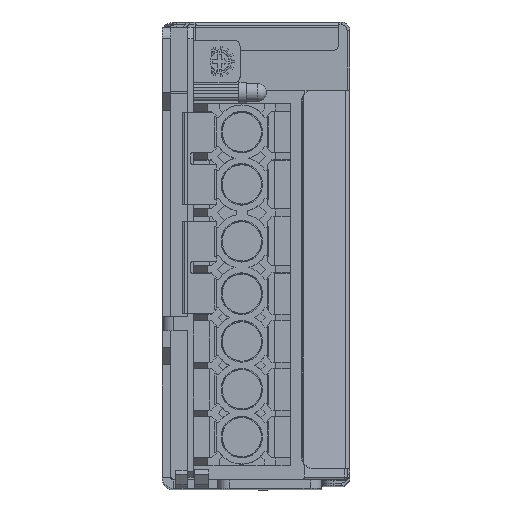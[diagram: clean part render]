
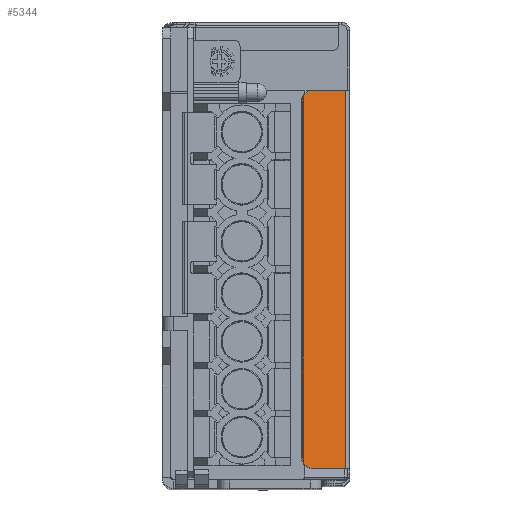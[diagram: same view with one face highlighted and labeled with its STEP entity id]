
A CAD part, top view. The second image highlights one B-rep face of the part: STEP entity #5344.
In plain terms, the highlighted planar face has unit normal (0.262, 0, 0.965).
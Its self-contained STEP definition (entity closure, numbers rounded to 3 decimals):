
#1465 = LINE ( 'NONE', #93126, #28985 ) ;
#2066 = CARTESIAN_POINT ( 'NONE',  ( 26.535, 68., -5.361 ) ) ;
#3214 = VERTEX_POINT ( 'NONE', #63480 ) ;
#5020 = ORIENTED_EDGE ( 'NONE', *, *, #84195, .F. ) ;
#5344 = ADVANCED_FACE ( 'NONE', ( #81848 ), #12537, .F. ) ;
#5750 = VERTEX_POINT ( 'NONE', #41405 ) ;
#8314 = AXIS2_PLACEMENT_3D ( 'NONE', #76697, #66196, #55793 ) ;
#10455 = CARTESIAN_POINT ( 'NONE',  ( 26.535, 5.5, -5.361 ) ) ;
#10465 = ORIENTED_EDGE ( 'NONE', *, *, #36828, .F. ) ;
#10924 = ORIENTED_EDGE ( 'NONE', *, *, #61685, .F. ) ;
#12537 = PLANE ( 'NONE',  #97641 ) ;
#15049 = DIRECTION ( 'NONE',  ( 0., -1., 0. ) ) ;
#18428 = VECTOR ( 'NONE', #27653, 1000. ) ;
#19103 = ORIENTED_EDGE ( 'NONE', *, *, #42041, .F. ) ;
#23390 = CIRCLE ( 'NONE', #8314, 2. ) ;
#25522 = CARTESIAN_POINT ( 'NONE',  ( 32.262, 68., -6.917 ) ) ;
#27653 = DIRECTION ( 'NONE',  ( -0.965, 0., 0.262 ) ) ;
#28985 = VECTOR ( 'NONE', #82666, 1000. ) ;
#29114 = LINE ( 'NONE', #78999, #49893 ) ;
#33617 = EDGE_LOOP ( 'NONE', ( #10924, #42203, #19103, #10465, #5020, #41101 ) ) ;
#35900 = LINE ( 'NONE', #25522, #69415 ) ;
#36828 = EDGE_CURVE ( 'NONE', #96933, #5750, #29114, .T. ) ;
#37762 = EDGE_CURVE ( 'NONE', #64601, #52056, #58997, .T. ) ;
#38084 = CARTESIAN_POINT ( 'NONE',  ( 26.535, 3.5, -5.361 ) ) ;
#41101 = ORIENTED_EDGE ( 'NONE', *, *, #37762, .F. ) ;
#41405 = CARTESIAN_POINT ( 'NONE',  ( 24.605, 68., -4.837 ) ) ;
#42041 = EDGE_CURVE ( 'NONE', #5750, #91374, #23390, .T. ) ;
#42203 = ORIENTED_EDGE ( 'NONE', *, *, #54057, .F. ) ;
#49587 = CARTESIAN_POINT ( 'NONE',  ( 24.605, 5.5, -4.837 ) ) ;
#49893 = VECTOR ( 'NONE', #68437, 1000. ) ;
#52056 = VERTEX_POINT ( 'NONE', #72094 ) ;
#53170 = CARTESIAN_POINT ( 'NONE',  ( 26.535, 70., -5.361 ) ) ;
#54057 = EDGE_CURVE ( 'NONE', #91374, #3214, #1465, .T. ) ;
#55793 = DIRECTION ( 'NONE',  ( 0.965, 0., -0.262 ) ) ;
#58997 = LINE ( 'NONE', #38084, #18428 ) ;
#60185 = DIRECTION ( 'NONE',  ( 0.965, 0., -0.262 ) ) ;
#61685 = EDGE_CURVE ( 'NONE', #3214, #64601, #35900, .T. ) ;
#63480 = CARTESIAN_POINT ( 'NONE',  ( 32.262, 70., -6.917 ) ) ;
#64601 = VERTEX_POINT ( 'NONE', #89614 ) ;
#66196 = DIRECTION ( 'NONE',  ( -0.262, 0., -0.965 ) ) ;
#68437 = DIRECTION ( 'NONE',  ( 0., 1., 0. ) ) ;
#69415 = VECTOR ( 'NONE', #15049, 1000. ) ;
#70635 = DIRECTION ( 'NONE',  ( -0.262, 0., -0.965 ) ) ;
#72094 = CARTESIAN_POINT ( 'NONE',  ( 26.535, 3.5, -5.361 ) ) ;
#76334 = CIRCLE ( 'NONE', #77737, 2. ) ;
#76697 = CARTESIAN_POINT ( 'NONE',  ( 26.535, 68., -5.361 ) ) ;
#77737 = AXIS2_PLACEMENT_3D ( 'NONE', #10455, #70635, #60185 ) ;
#78999 = CARTESIAN_POINT ( 'NONE',  ( 24.605, 68., -4.837 ) ) ;
#81848 = FACE_OUTER_BOUND ( 'NONE', #33617, .T. ) ;
#82666 = DIRECTION ( 'NONE',  ( 0.965, 0., -0.262 ) ) ;
#83273 = DIRECTION ( 'NONE',  ( 0.965, 0., -0.262 ) ) ;
#84195 = EDGE_CURVE ( 'NONE', #52056, #96933, #76334, .T. ) ;
#89614 = CARTESIAN_POINT ( 'NONE',  ( 32.262, 3.5, -6.917 ) ) ;
#91374 = VERTEX_POINT ( 'NONE', #53170 ) ;
#93126 = CARTESIAN_POINT ( 'NONE',  ( 32.631, 70., -7.017 ) ) ;
#93724 = DIRECTION ( 'NONE',  ( -0.262, 0., -0.965 ) ) ;
#96933 = VERTEX_POINT ( 'NONE', #49587 ) ;
#97641 = AXIS2_PLACEMENT_3D ( 'NONE', #2066, #93724, #83273 ) ;
